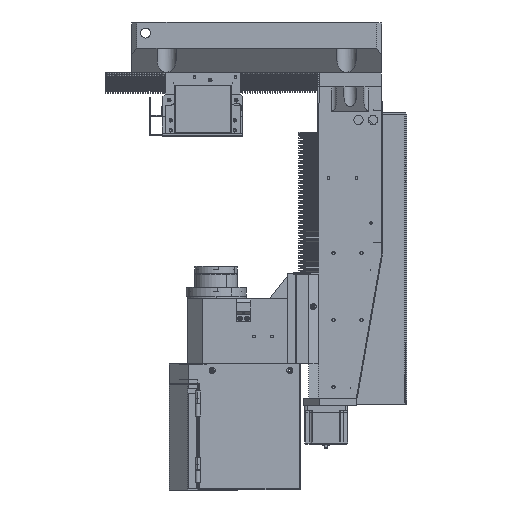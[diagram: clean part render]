
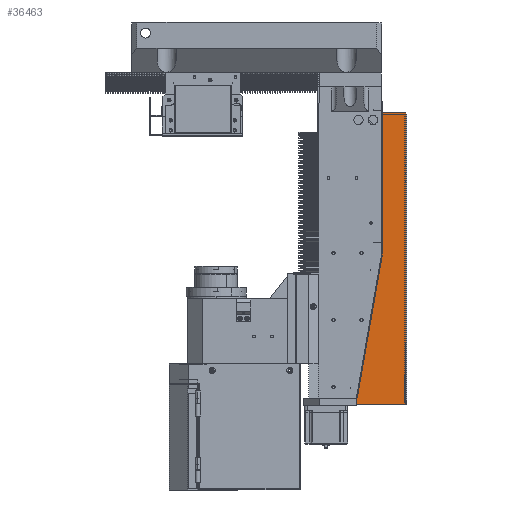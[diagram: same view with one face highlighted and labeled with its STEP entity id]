
A CAD part, left-side view. The second image highlights one B-rep face of the part: STEP entity #36463.
In plain terms, the highlighted planar face has unit normal (-1, 0, 0) as drawn and (1, 0, 0) by its records, which use the part's own axes.
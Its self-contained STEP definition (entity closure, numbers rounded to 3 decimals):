
#2521 = VERTEX_POINT ( 'NONE', #81978 ) ;
#3553 = FACE_OUTER_BOUND ( 'NONE', #32824, .T. ) ;
#5645 = VERTEX_POINT ( 'NONE', #108415 ) ;
#7822 = VERTEX_POINT ( 'NONE', #75374 ) ;
#7983 = DIRECTION ( 'NONE',  ( 0., 0., 1. ) ) ;
#8046 = EDGE_CURVE ( 'NONE', #111998, #124474, #71138, .T. ) ;
#8854 = DIRECTION ( 'NONE',  ( 1., 0., 0. ) ) ;
#9070 = CIRCLE ( 'NONE', #92237, 4.5 ) ;
#10681 = AXIS2_PLACEMENT_3D ( 'NONE', #88068, #25821, #98513 ) ;
#10805 = CARTESIAN_POINT ( 'NONE',  ( 185.006, 70., -24. ) ) ;
#12447 = AXIS2_PLACEMENT_3D ( 'NONE', #10805, #83657, #21329 ) ;
#15179 = EDGE_CURVE ( 'NONE', #54334, #119097, #48848, .T. ) ;
#15309 = DIRECTION ( 'NONE',  ( 1., 0., 0. ) ) ;
#16570 = EDGE_LOOP ( 'NONE', ( #79035, #106042 ) ) ;
#16840 = EDGE_CURVE ( 'NONE', #94420, #5645, #118246, .T. ) ;
#17102 = DIRECTION ( 'NONE',  ( 0., -1., 0. ) ) ;
#17890 = DIRECTION ( 'NONE',  ( 1., 0., 0. ) ) ;
#20788 = LINE ( 'NONE', #89825, #76141 ) ;
#21329 = DIRECTION ( 'NONE',  ( 0., 0., -1. ) ) ;
#21934 = ORIENTED_EDGE ( 'NONE', *, *, #8046, .F. ) ;
#24127 = EDGE_CURVE ( 'NONE', #2521, #49260, #68015, .T. ) ;
#25821 = DIRECTION ( 'NONE',  ( 1., 0., 0. ) ) ;
#28936 = EDGE_LOOP ( 'NONE', ( #129209, #91521 ) ) ;
#29187 = EDGE_CURVE ( 'NONE', #49260, #2521, #58748, .T. ) ;
#31279 = FACE_BOUND ( 'NONE', #76145, .T. ) ;
#31793 = EDGE_CURVE ( 'NONE', #7822, #60096, #9070, .T. ) ;
#32824 = EDGE_LOOP ( 'NONE', ( #34251, #55534, #68223, #106929 ) ) ;
#34251 = ORIENTED_EDGE ( 'NONE', *, *, #15179, .T. ) ;
#34390 = DIRECTION ( 'NONE',  ( 0., 0., -1. ) ) ;
#34504 = FACE_BOUND ( 'NONE', #28936, .T. ) ;
#36324 = ORIENTED_EDGE ( 'NONE', *, *, #24127, .F. ) ;
#36463 = ADVANCED_FACE ( 'NONE', ( #58855, #34504, #89790, #86545, #31279, #3553 ), #49366, .F. ) ;
#39561 = DIRECTION ( 'NONE',  ( 1., 0., 0. ) ) ;
#40366 = CIRCLE ( 'NONE', #101549, 4.5 ) ;
#41037 = EDGE_CURVE ( 'NONE', #87930, #82341, #117048, .T. ) ;
#41687 = CIRCLE ( 'NONE', #96136, 4.5 ) ;
#43274 = EDGE_CURVE ( 'NONE', #52618, #58624, #114135, .T. ) ;
#45325 = DIRECTION ( 'NONE',  ( 0., -1., 0. ) ) ;
#46221 = ORIENTED_EDGE ( 'NONE', *, *, #16840, .F. ) ;
#46562 = DIRECTION ( 'NONE',  ( 1., 0., 0. ) ) ;
#46886 = CARTESIAN_POINT ( 'NONE',  ( 185.006, 0., -54. ) ) ;
#48848 = LINE ( 'NONE', #96638, #107399 ) ;
#49260 = VERTEX_POINT ( 'NONE', #102955 ) ;
#49366 = PLANE ( 'NONE',  #113819 ) ;
#50491 = CARTESIAN_POINT ( 'NONE',  ( 185.006, 280., 46. ) ) ;
#52618 = VERTEX_POINT ( 'NONE', #74686 ) ;
#54334 = VERTEX_POINT ( 'NONE', #126487 ) ;
#54904 = CARTESIAN_POINT ( 'NONE',  ( 185.006, 70., -28.5 ) ) ;
#55534 = ORIENTED_EDGE ( 'NONE', *, *, #132647, .F. ) ;
#55854 = DIRECTION ( 'NONE',  ( 1., 0., 0. ) ) ;
#56885 = VECTOR ( 'NONE', #45325, 1000. ) ;
#58624 = VERTEX_POINT ( 'NONE', #113851 ) ;
#58748 = CIRCLE ( 'NONE', #85454, 17.5 ) ;
#58855 = FACE_BOUND ( 'NONE', #128674, .T. ) ;
#59799 = CARTESIAN_POINT ( 'NONE',  ( 185.006, 584., -54. ) ) ;
#60096 = VERTEX_POINT ( 'NONE', #132198 ) ;
#60926 = DIRECTION ( 'NONE',  ( 0., 0., -1. ) ) ;
#62107 = DIRECTION ( 'NONE',  ( 1., 0., 0. ) ) ;
#63418 = CARTESIAN_POINT ( 'NONE',  ( 185.006, 584., 118. ) ) ;
#64165 = ORIENTED_EDGE ( 'NONE', *, *, #29187, .F. ) ;
#68015 = CIRCLE ( 'NONE', #91793, 17.5 ) ;
#68223 = ORIENTED_EDGE ( 'NONE', *, *, #41037, .F. ) ;
#70289 = DIRECTION ( 'NONE',  ( -1., 0., 0. ) ) ;
#71138 = CIRCLE ( 'NONE', #121061, 4.5 ) ;
#71168 = CARTESIAN_POINT ( 'NONE',  ( 185.006, 70., -24. ) ) ;
#71442 = CARTESIAN_POINT ( 'NONE',  ( 185.006, 584., -54. ) ) ;
#74686 = CARTESIAN_POINT ( 'NONE',  ( 185.006, 70., 41.5 ) ) ;
#75374 = CARTESIAN_POINT ( 'NONE',  ( 185.006, 280., 41.5 ) ) ;
#75701 = CARTESIAN_POINT ( 'NONE',  ( 185.006, 584., -54. ) ) ;
#76141 = VECTOR ( 'NONE', #17102, 1000. ) ;
#76145 = EDGE_LOOP ( 'NONE', ( #36324, #64165 ) ) ;
#77598 = CARTESIAN_POINT ( 'NONE',  ( 185.006, 444., -24. ) ) ;
#79035 = ORIENTED_EDGE ( 'NONE', *, *, #43274, .F. ) ;
#79304 = ORIENTED_EDGE ( 'NONE', *, *, #93766, .F. ) ;
#80209 = CARTESIAN_POINT ( 'NONE',  ( 185.006, 70., 46. ) ) ;
#81651 = DIRECTION ( 'NONE',  ( 0., 0., -1. ) ) ;
#81978 = CARTESIAN_POINT ( 'NONE',  ( 185.006, 30., 21.5 ) ) ;
#82291 = CIRCLE ( 'NONE', #118159, 4.5 ) ;
#82341 = VERTEX_POINT ( 'NONE', #71442 ) ;
#83657 = DIRECTION ( 'NONE',  ( 1., 0., 0. ) ) ;
#84562 = LINE ( 'NONE', #118013, #56885 ) ;
#85233 = CARTESIAN_POINT ( 'NONE',  ( 185.006, 70., -19.5 ) ) ;
#85454 = AXIS2_PLACEMENT_3D ( 'NONE', #124468, #62107, #134998 ) ;
#86545 = FACE_BOUND ( 'NONE', #95872, .T. ) ;
#87342 = EDGE_CURVE ( 'NONE', #124474, #111998, #112106, .T. ) ;
#87930 = VERTEX_POINT ( 'NONE', #63418 ) ;
#88032 = DIRECTION ( 'NONE',  ( 0., 0., -1. ) ) ;
#88068 = CARTESIAN_POINT ( 'NONE',  ( 185.006, 444., -24. ) ) ;
#88124 = EDGE_CURVE ( 'NONE', #60096, #7822, #40366, .T. ) ;
#89425 = VECTOR ( 'NONE', #117455, 1000. ) ;
#89790 = FACE_BOUND ( 'NONE', #16570, .T. ) ;
#89825 = CARTESIAN_POINT ( 'NONE',  ( 185.006, 584., -54. ) ) ;
#90625 = DIRECTION ( 'NONE',  ( 0., 0., -1. ) ) ;
#91521 = ORIENTED_EDGE ( 'NONE', *, *, #88124, .F. ) ;
#91793 = AXIS2_PLACEMENT_3D ( 'NONE', #118100, #55854, #128653 ) ;
#92237 = AXIS2_PLACEMENT_3D ( 'NONE', #50491, #123240, #60926 ) ;
#93766 = EDGE_CURVE ( 'NONE', #5645, #94420, #41687, .T. ) ;
#94420 = VERTEX_POINT ( 'NONE', #103447 ) ;
#95872 = EDGE_LOOP ( 'NONE', ( #114674, #21934 ) ) ;
#96136 = AXIS2_PLACEMENT_3D ( 'NONE', #77598, #15309, #88032 ) ;
#96638 = CARTESIAN_POINT ( 'NONE',  ( 185.006, 0., -54. ) ) ;
#98513 = DIRECTION ( 'NONE',  ( 0., 0., -1. ) ) ;
#101549 = AXIS2_PLACEMENT_3D ( 'NONE', #108816, #46562, #119280 ) ;
#101866 = CARTESIAN_POINT ( 'NONE',  ( 185.006, 70., 46. ) ) ;
#102955 = CARTESIAN_POINT ( 'NONE',  ( 185.006, 30., 56.5 ) ) ;
#103447 = CARTESIAN_POINT ( 'NONE',  ( 185.006, 444., -19.5 ) ) ;
#106042 = ORIENTED_EDGE ( 'NONE', *, *, #119299, .F. ) ;
#106929 = ORIENTED_EDGE ( 'NONE', *, *, #116893, .T. ) ;
#107399 = VECTOR ( 'NONE', #34390, 1000. ) ;
#108415 = CARTESIAN_POINT ( 'NONE',  ( 185.006, 444., -28.5 ) ) ;
#108816 = CARTESIAN_POINT ( 'NONE',  ( 185.006, 280., 46. ) ) ;
#111998 = VERTEX_POINT ( 'NONE', #85233 ) ;
#112106 = CIRCLE ( 'NONE', #12447, 4.5 ) ;
#112300 = DIRECTION ( 'NONE',  ( 0., 0., -1. ) ) ;
#113819 = AXIS2_PLACEMENT_3D ( 'NONE', #59799, #70289, #7983 ) ;
#113851 = CARTESIAN_POINT ( 'NONE',  ( 185.006, 70., 50.5 ) ) ;
#114135 = CIRCLE ( 'NONE', #129416, 4.5 ) ;
#114674 = ORIENTED_EDGE ( 'NONE', *, *, #87342, .F. ) ;
#116893 = EDGE_CURVE ( 'NONE', #87930, #54334, #84562, .T. ) ;
#117048 = LINE ( 'NONE', #75701, #89425 ) ;
#117455 = DIRECTION ( 'NONE',  ( 0., 0., -1. ) ) ;
#118013 = CARTESIAN_POINT ( 'NONE',  ( 185.006, 584., 118. ) ) ;
#118100 = CARTESIAN_POINT ( 'NONE',  ( 185.006, 30., 39. ) ) ;
#118159 = AXIS2_PLACEMENT_3D ( 'NONE', #101866, #39561, #112300 ) ;
#118246 = CIRCLE ( 'NONE', #10681, 4.5 ) ;
#119097 = VERTEX_POINT ( 'NONE', #46886 ) ;
#119280 = DIRECTION ( 'NONE',  ( 0., 0., -1. ) ) ;
#119299 = EDGE_CURVE ( 'NONE', #58624, #52618, #82291, .T. ) ;
#121061 = AXIS2_PLACEMENT_3D ( 'NONE', #71168, #8854, #81651 ) ;
#123240 = DIRECTION ( 'NONE',  ( 1., 0., 0. ) ) ;
#124468 = CARTESIAN_POINT ( 'NONE',  ( 185.006, 30., 39. ) ) ;
#124474 = VERTEX_POINT ( 'NONE', #54904 ) ;
#126487 = CARTESIAN_POINT ( 'NONE',  ( 185.006, 0., 118. ) ) ;
#128653 = DIRECTION ( 'NONE',  ( 0., 0., -1. ) ) ;
#128674 = EDGE_LOOP ( 'NONE', ( #79304, #46221 ) ) ;
#129209 = ORIENTED_EDGE ( 'NONE', *, *, #31793, .F. ) ;
#129416 = AXIS2_PLACEMENT_3D ( 'NONE', #80209, #17890, #90625 ) ;
#132198 = CARTESIAN_POINT ( 'NONE',  ( 185.006, 280., 50.5 ) ) ;
#132647 = EDGE_CURVE ( 'NONE', #82341, #119097, #20788, .T. ) ;
#134998 = DIRECTION ( 'NONE',  ( 0., 0., -1. ) ) ;
